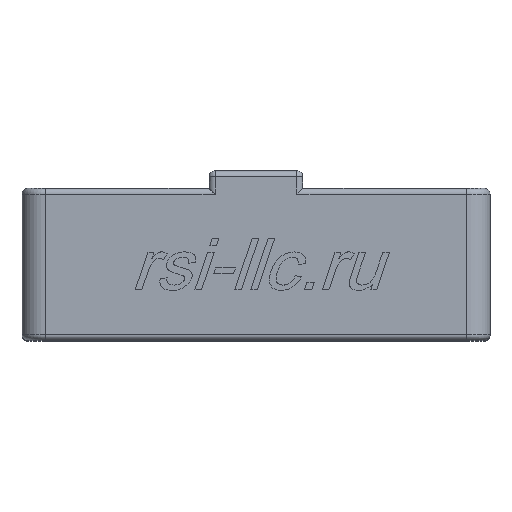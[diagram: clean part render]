
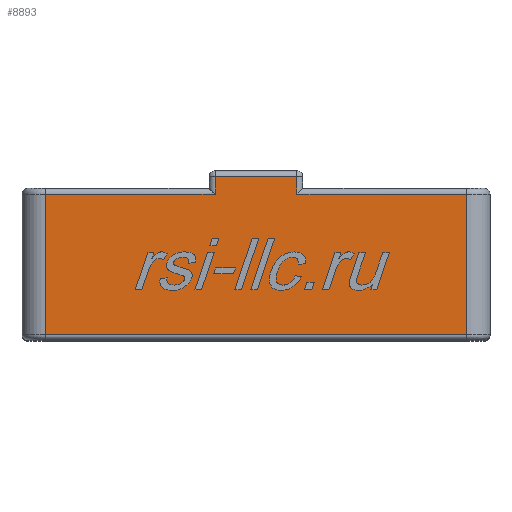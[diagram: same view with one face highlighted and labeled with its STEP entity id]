
A CAD part, top view. The second image highlights one B-rep face of the part: STEP entity #8893.
In plain terms, the highlighted planar face has unit normal (0, 0, 1).
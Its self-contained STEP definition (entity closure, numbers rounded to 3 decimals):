
#80 = EDGE_CURVE ( 'NONE', #5363, #8102, #2821, .T. ) ;
#178 = VECTOR ( 'NONE', #2914, 1000. ) ;
#689 = CARTESIAN_POINT ( 'NONE',  ( -3.5, 6., 20. ) ) ;
#970 = CARTESIAN_POINT ( 'NONE',  ( -18., 6., 20. ) ) ;
#1013 = ORIENTED_EDGE ( 'NONE', *, *, #8385, .T. ) ;
#1148 = CARTESIAN_POINT ( 'NONE',  ( -3.5, 8., 20. ) ) ;
#1227 = DIRECTION ( 'NONE',  ( 0., 0., -1. ) ) ;
#1296 = ORIENTED_EDGE ( 'NONE', *, *, #10665, .T. ) ;
#1311 = CARTESIAN_POINT ( 'NONE',  ( -18., -6., 20. ) ) ;
#1641 = LINE ( 'NONE', #5098, #4207 ) ;
#1811 = DIRECTION ( 'NONE',  ( 0., -1., 0. ) ) ;
#1960 = EDGE_LOOP ( 'NONE', ( #4929, #9219, #3338, #1013, #10276, #8972, #4991, #1296 ) ) ;
#2768 = CARTESIAN_POINT ( 'NONE',  ( 3.5, 8., 20. ) ) ;
#2821 = LINE ( 'NONE', #6260, #7187 ) ;
#2914 = DIRECTION ( 'NONE',  ( -1., 0., 0. ) ) ;
#3306 = VECTOR ( 'NONE', #10971, 1000. ) ;
#3338 = ORIENTED_EDGE ( 'NONE', *, *, #9506, .T. ) ;
#3811 = VECTOR ( 'NONE', #6209, 1000. ) ;
#4102 = LINE ( 'NONE', #7523, #3306 ) ;
#4207 = VECTOR ( 'NONE', #8507, 1000. ) ;
#4298 = VECTOR ( 'NONE', #1811, 1000. ) ;
#4447 = DIRECTION ( 'NONE',  ( -1., 0., 0. ) ) ;
#4480 = EDGE_CURVE ( 'NONE', #8066, #8102, #1641, .T. ) ;
#4628 = DIRECTION ( 'NONE',  ( 0., -1., 0. ) ) ;
#4699 = DIRECTION ( 'NONE',  ( -1., 0., 0. ) ) ;
#4849 = VERTEX_POINT ( 'NONE', #8727 ) ;
#4929 = ORIENTED_EDGE ( 'NONE', *, *, #5654, .F. ) ;
#4991 = ORIENTED_EDGE ( 'NONE', *, *, #80, .F. ) ;
#5098 = CARTESIAN_POINT ( 'NONE',  ( -18., -6., 20. ) ) ;
#5363 = VERTEX_POINT ( 'NONE', #7588 ) ;
#5654 = EDGE_CURVE ( 'NONE', #11101, #8137, #10492, .T. ) ;
#6101 = LINE ( 'NONE', #9530, #4298 ) ;
#6209 = DIRECTION ( 'NONE',  ( 0., -1., 0. ) ) ;
#6260 = CARTESIAN_POINT ( 'NONE',  ( 18., 6.5, 20. ) ) ;
#6266 = VECTOR ( 'NONE', #4447, 1000. ) ;
#6664 = VERTEX_POINT ( 'NONE', #689 ) ;
#6930 = CARTESIAN_POINT ( 'NONE',  ( 3.5, 7.5, 20. ) ) ;
#6953 = CARTESIAN_POINT ( 'NONE',  ( 3.5, 6., 20. ) ) ;
#7154 = FACE_OUTER_BOUND ( 'NONE', #1960, .T. ) ;
#7187 = VECTOR ( 'NONE', #9699, 1000. ) ;
#7202 = LINE ( 'NONE', #10641, #178 ) ;
#7523 = CARTESIAN_POINT ( 'NONE',  ( 3.5, 6., 20. ) ) ;
#7588 = CARTESIAN_POINT ( 'NONE',  ( 18., 6., 20. ) ) ;
#7694 = AXIS2_PLACEMENT_3D ( 'NONE', #8966, #1227, #4699 ) ;
#7970 = VERTEX_POINT ( 'NONE', #9288 ) ;
#8066 = VERTEX_POINT ( 'NONE', #1311 ) ;
#8102 = VERTEX_POINT ( 'NONE', #9157 ) ;
#8137 = VERTEX_POINT ( 'NONE', #6953 ) ;
#8385 = EDGE_CURVE ( 'NONE', #6664, #4849, #8700, .T. ) ;
#8507 = DIRECTION ( 'NONE',  ( 1., 0., 0. ) ) ;
#8700 = LINE ( 'NONE', #970, #6266 ) ;
#8727 = CARTESIAN_POINT ( 'NONE',  ( -18., 6., 20. ) ) ;
#8888 = LINE ( 'NONE', #1148, #9011 ) ;
#8893 = ADVANCED_FACE ( 'NONE', ( #7154 ), #10600, .F. ) ;
#8966 = CARTESIAN_POINT ( 'NONE',  ( -18., 6.5, 20. ) ) ;
#8972 = ORIENTED_EDGE ( 'NONE', *, *, #4480, .T. ) ;
#9011 = VECTOR ( 'NONE', #4628, 1000. ) ;
#9157 = CARTESIAN_POINT ( 'NONE',  ( 18., -6., 20. ) ) ;
#9162 = EDGE_CURVE ( 'NONE', #11101, #7970, #7202, .T. ) ;
#9219 = ORIENTED_EDGE ( 'NONE', *, *, #9162, .T. ) ;
#9288 = CARTESIAN_POINT ( 'NONE',  ( -3.5, 7.5, 20. ) ) ;
#9506 = EDGE_CURVE ( 'NONE', #7970, #6664, #8888, .T. ) ;
#9530 = CARTESIAN_POINT ( 'NONE',  ( -18., 6.5, 20. ) ) ;
#9699 = DIRECTION ( 'NONE',  ( 0., -1., 0. ) ) ;
#10276 = ORIENTED_EDGE ( 'NONE', *, *, #10904, .T. ) ;
#10492 = LINE ( 'NONE', #2768, #3811 ) ;
#10600 = PLANE ( 'NONE',  #7694 ) ;
#10641 = CARTESIAN_POINT ( 'NONE',  ( -18., 7.5, 20. ) ) ;
#10665 = EDGE_CURVE ( 'NONE', #5363, #8137, #4102, .T. ) ;
#10904 = EDGE_CURVE ( 'NONE', #4849, #8066, #6101, .T. ) ;
#10971 = DIRECTION ( 'NONE',  ( -1., 0., 0. ) ) ;
#11101 = VERTEX_POINT ( 'NONE', #6930 ) ;
